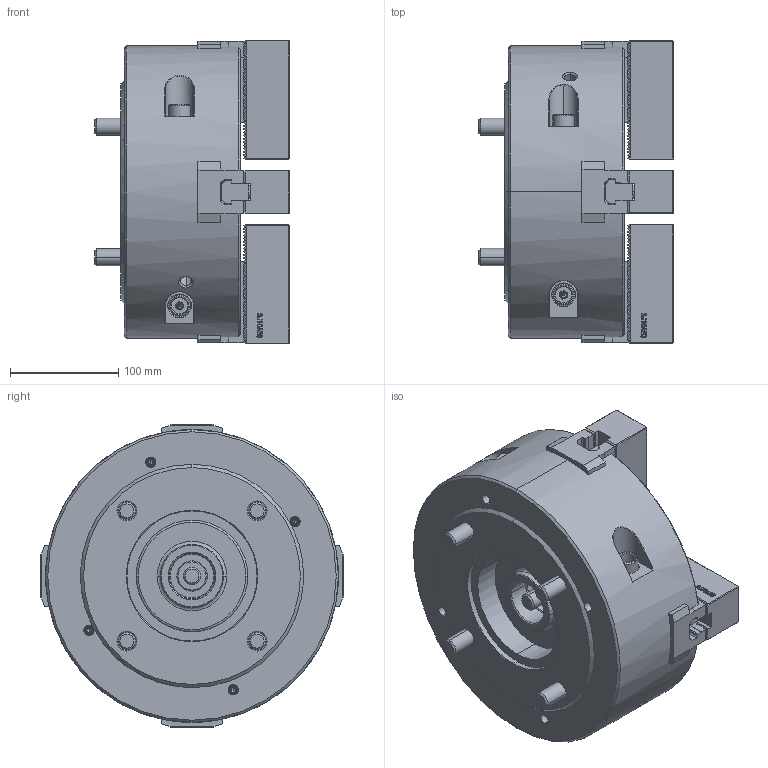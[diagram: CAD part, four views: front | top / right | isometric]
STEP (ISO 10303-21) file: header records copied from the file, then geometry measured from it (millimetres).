
FILE_DESCRIPTION (( 'STEP AP214' ), '1' );
FILE_NAME ('DT1_HW-10_OUTSIDE_VIEW_UC.STEP', '2026-01-26T02:54:34', ( '' ), ( '' ), 'SwSTEP 2.0', 'SolidWorks 2022', '' );
FILE_SCHEMA (( 'AUTOMOTIVE_DESIGN' ));
Length unit declared in the file: millimetre
Products named in the file (10): DT1_HW10_COVER^DT1_HW-10; DT1_HW10_M16x115^DT1_HW-10; DT1_HW10_SOFTJAW^DT1_HW-10; DT1_HW10_DN^DT1_HW-10; DT1_HW10_BASE^DT1_HW-10; DT1_HW10_M5x10^DT1_HW-10; DT1_HW10_DRAWSCREW^DT1_HW-10; DT1_HW10_TNUT^DT1_HW-10; DT1_HW-10_OUTSIDE_VIEW_UC; DT1_HW10_M12x35^DT1_HW-10
Assembly tree (28 placements, depth 2):
  DT1_HW-10_OUTSIDE_VIEW_UC
    DT1_HW10_SOFTJAW^DT1_HW-10  x4
    DT1_HW10_TNUT^DT1_HW-10  x4
    DT1_HW10_COVER^DT1_HW-10
    DT1_HW10_DRAWSCREW^DT1_HW-10
    DT1_HW10_DN^DT1_HW-10
    DT1_HW10_BASE^DT1_HW-10
    DT1_HW10_M16x115^DT1_HW-10  x4
    DT1_HW10_M12x35^DT1_HW-10  x8
    DT1_HW10_M5x10^DT1_HW-10  x4
Bounding box: 179 x 279.6 x 279.97 mm (x, y, z)
Volume: 6559309.8 mm3; surface area: 537828.7 mm2
Topology: 28 solids, 30 shells, 5082 faces, 14245 edges, 9333 vertices
Faces by surface type: plane 3050, cylinder 1112, cone 451, bspline 403, torus 58, sphere 8
Entity records: 114318 total; most frequent: CARTESIAN_POINT 35686, ORIENTED_EDGE 17432, DIRECTION 14467, EDGE_CURVE 8716, VECTOR 6261, LINE 6261, VERTEX_POINT 5720, AXIS2_PLACEMENT_3D 4103
